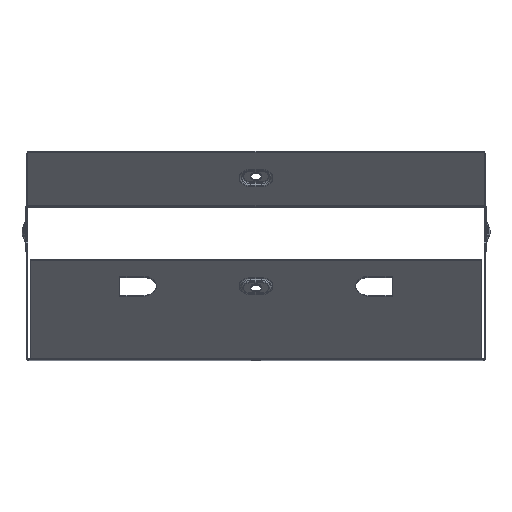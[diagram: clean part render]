
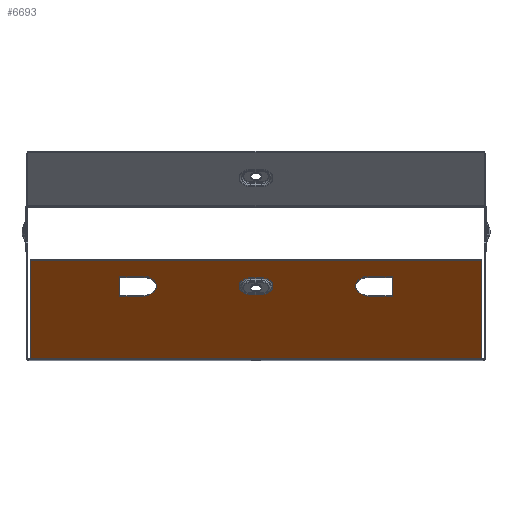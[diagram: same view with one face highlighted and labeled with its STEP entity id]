
A CAD part, top view. The second image highlights one B-rep face of the part: STEP entity #6693.
In plain terms, the highlighted planar face has unit normal (0, -0.707, 0.707).
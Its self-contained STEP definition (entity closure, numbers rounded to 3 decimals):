
#47 = CARTESIAN_POINT ( 'NONE',  ( -74., -52.894, 152.156 ) ) ;
#128 = EDGE_CURVE ( 'NONE', #1862, #12596, #3987, .T. ) ;
#155 = EDGE_CURVE ( 'NONE', #7657, #11475, #14189, .T. ) ;
#170 = DIRECTION ( 'NONE',  ( 0., -0.707, -0.707 ) ) ;
#333 = VERTEX_POINT ( 'NONE', #4056 ) ;
#397 = ORIENTED_EDGE ( 'NONE', *, *, #2425, .T. ) ;
#581 = AXIS2_PLACEMENT_3D ( 'NONE', #11210, #13409, #3197 ) ;
#738 = ORIENTED_EDGE ( 'NONE', *, *, #10270, .T. ) ;
#746 = FACE_BOUND ( 'NONE', #8719, .T. ) ;
#805 = VERTEX_POINT ( 'NONE', #3806 ) ;
#889 = EDGE_LOOP ( 'NONE', ( #9167, #14653, #2696, #10898 ) ) ;
#1012 = CARTESIAN_POINT ( 'NONE',  ( 148.2, -100.273, 104.777 ) ) ;
#1036 = LINE ( 'NONE', #1253, #6485 ) ;
#1126 = VECTOR ( 'NONE', #10373, 1000. ) ;
#1253 = CARTESIAN_POINT ( 'NONE',  ( -74., -59.257, 145.793 ) ) ;
#1262 = EDGE_CURVE ( 'NONE', #10022, #5488, #3230, .T. ) ;
#1734 = VECTOR ( 'NONE', #10174, 1000. ) ;
#1772 = CARTESIAN_POINT ( 'NONE',  ( 89., -59.257, 145.793 ) ) ;
#1820 = CARTESIAN_POINT ( 'NONE',  ( 74., -46.53, 158.52 ) ) ;
#1862 = VERTEX_POINT ( 'NONE', #2820 ) ;
#1954 = FACE_BOUND ( 'NONE', #8033, .T. ) ;
#2080 = VECTOR ( 'NONE', #3104, 1000. ) ;
#2149 = CARTESIAN_POINT ( 'NONE',  ( 89., -46.53, 158.52 ) ) ;
#2172 = CARTESIAN_POINT ( 'NONE',  ( 3.5, -58.266, 146.784 ) ) ;
#2187 = VECTOR ( 'NONE', #8299, 1000. ) ;
#2199 = DIRECTION ( 'NONE',  ( 0., 0.707, 0.707 ) ) ;
#2418 = CIRCLE ( 'NONE', #9561, 9. ) ;
#2425 = EDGE_CURVE ( 'NONE', #12479, #1862, #14571, .T. ) ;
#2431 = EDGE_LOOP ( 'NONE', ( #13283, #14371, #738, #14428 ) ) ;
#2494 = CARTESIAN_POINT ( 'NONE',  ( -147.299, -100.8, 104.25 ) ) ;
#2530 = EDGE_CURVE ( 'NONE', #11475, #333, #14409, .T. ) ;
#2652 = VERTEX_POINT ( 'NONE', #12357 ) ;
#2696 = ORIENTED_EDGE ( 'NONE', *, *, #6201, .T. ) ;
#2820 = CARTESIAN_POINT ( 'NONE',  ( 74., -59.257, 145.793 ) ) ;
#3104 = DIRECTION ( 'NONE',  ( -1., 0., 0. ) ) ;
#3177 = CARTESIAN_POINT ( 'NONE',  ( -3.5, -58.266, 146.784 ) ) ;
#3186 = LINE ( 'NONE', #11286, #5649 ) ;
#3197 = DIRECTION ( 'NONE',  ( 0., 0.707, 0.707 ) ) ;
#3230 = LINE ( 'NONE', #7067, #2187 ) ;
#3382 = ORIENTED_EDGE ( 'NONE', *, *, #6850, .T. ) ;
#3411 = AXIS2_PLACEMENT_3D ( 'NONE', #3629, #11603, #12766 ) ;
#3629 = CARTESIAN_POINT ( 'NONE',  ( 74., -52.894, 152.156 ) ) ;
#3806 = CARTESIAN_POINT ( 'NONE',  ( -3.5, -47.521, 157.529 ) ) ;
#3987 = CIRCLE ( 'NONE', #3411, 9. ) ;
#4056 = CARTESIAN_POINT ( 'NONE',  ( -147.299, -100.273, 104.777 ) ) ;
#4251 = CARTESIAN_POINT ( 'NONE',  ( -3.5, -52.894, 152.156 ) ) ;
#4401 = DIRECTION ( 'NONE',  ( 0., 0.707, 0.707 ) ) ;
#4408 = DIRECTION ( 'NONE',  ( 0., -0.707, -0.707 ) ) ;
#4628 = ORIENTED_EDGE ( 'NONE', *, *, #128, .T. ) ;
#4791 = VERTEX_POINT ( 'NONE', #7622 ) ;
#4792 = CARTESIAN_POINT ( 'NONE',  ( -147.299, -35.923, 169.127 ) ) ;
#4832 = DIRECTION ( 'NONE',  ( -1., 0., 0. ) ) ;
#4855 = VERTEX_POINT ( 'NONE', #3177 ) ;
#5044 = VECTOR ( 'NONE', #8763, 1000. ) ;
#5174 = AXIS2_PLACEMENT_3D ( 'NONE', #6670, #14654, #2199 ) ;
#5211 = LINE ( 'NONE', #1012, #2080 ) ;
#5384 = CIRCLE ( 'NONE', #5476, 7.598 ) ;
#5476 = AXIS2_PLACEMENT_3D ( 'NONE', #4251, #12252, #4401 ) ;
#5488 = VERTEX_POINT ( 'NONE', #9141 ) ;
#5630 = CARTESIAN_POINT ( 'NONE',  ( 89., -46.53, 158.52 ) ) ;
#5649 = VECTOR ( 'NONE', #13419, 1000. ) ;
#6052 = CARTESIAN_POINT ( 'NONE',  ( 147.299, -35.923, 169.127 ) ) ;
#6201 = EDGE_CURVE ( 'NONE', #10251, #4855, #3186, .T. ) ;
#6440 = CARTESIAN_POINT ( 'NONE',  ( 74., -46.53, 158.52 ) ) ;
#6485 = VECTOR ( 'NONE', #9188, 1000. ) ;
#6670 = CARTESIAN_POINT ( 'NONE',  ( 3.5, -52.894, 152.156 ) ) ;
#6693 = ADVANCED_FACE ( 'NONE', ( #746, #1954, #12821, #12440 ), #8884, .F. ) ;
#6850 = EDGE_CURVE ( 'NONE', #2652, #10022, #12265, .T. ) ;
#7067 = CARTESIAN_POINT ( 'NONE',  ( -74., -46.53, 158.52 ) ) ;
#7622 = CARTESIAN_POINT ( 'NONE',  ( 3.5, -47.521, 157.529 ) ) ;
#7657 = VERTEX_POINT ( 'NONE', #6052 ) ;
#7761 = LINE ( 'NONE', #12573, #1734 ) ;
#8029 = CARTESIAN_POINT ( 'NONE',  ( 147.299, -101.015, 104.035 ) ) ;
#8033 = EDGE_LOOP ( 'NONE', ( #3382, #11920, #13186, #13155 ) ) ;
#8284 = DIRECTION ( 'NONE',  ( -1., 0., 0. ) ) ;
#8299 = DIRECTION ( 'NONE',  ( 1., 0., 0. ) ) ;
#8719 = EDGE_LOOP ( 'NONE', ( #397, #4628, #10365, #10497 ) ) ;
#8763 = DIRECTION ( 'NONE',  ( 1., 0., 0. ) ) ;
#8884 = PLANE ( 'NONE',  #581 ) ;
#8894 = VECTOR ( 'NONE', #9550, 1000. ) ;
#9141 = CARTESIAN_POINT ( 'NONE',  ( -74., -46.53, 158.52 ) ) ;
#9167 = ORIENTED_EDGE ( 'NONE', *, *, #10967, .T. ) ;
#9188 = DIRECTION ( 'NONE',  ( -1., 0., 0. ) ) ;
#9541 = CARTESIAN_POINT ( 'NONE',  ( -89., -46.53, 158.52 ) ) ;
#9550 = DIRECTION ( 'NONE',  ( 0., -0.707, -0.707 ) ) ;
#9551 = VECTOR ( 'NONE', #8284, 1000. ) ;
#9561 = AXIS2_PLACEMENT_3D ( 'NONE', #47, #10219, #4408 ) ;
#9690 = EDGE_CURVE ( 'NONE', #4791, #10251, #12698, .T. ) ;
#9815 = LINE ( 'NONE', #8029, #1126 ) ;
#10022 = VERTEX_POINT ( 'NONE', #9541 ) ;
#10174 = DIRECTION ( 'NONE',  ( 1., 0., 0. ) ) ;
#10219 = DIRECTION ( 'NONE',  ( 0., 0.707, -0.707 ) ) ;
#10241 = VECTOR ( 'NONE', #170, 1000. ) ;
#10251 = VERTEX_POINT ( 'NONE', #2172 ) ;
#10270 = EDGE_CURVE ( 'NONE', #10303, #7657, #9815, .T. ) ;
#10303 = VERTEX_POINT ( 'NONE', #12509 ) ;
#10365 = ORIENTED_EDGE ( 'NONE', *, *, #11728, .T. ) ;
#10373 = DIRECTION ( 'NONE',  ( 0., 0.707, 0.707 ) ) ;
#10497 = ORIENTED_EDGE ( 'NONE', *, *, #13803, .T. ) ;
#10839 = VECTOR ( 'NONE', #4832, 1000. ) ;
#10898 = ORIENTED_EDGE ( 'NONE', *, *, #11317, .T. ) ;
#10967 = EDGE_CURVE ( 'NONE', #805, #4791, #7761, .T. ) ;
#10972 = EDGE_CURVE ( 'NONE', #13990, #2652, #1036, .T. ) ;
#11210 = CARTESIAN_POINT ( 'NONE',  ( 148.2, -100.8, 104.25 ) ) ;
#11286 = CARTESIAN_POINT ( 'NONE',  ( 3.5, -58.266, 146.784 ) ) ;
#11317 = EDGE_CURVE ( 'NONE', #4855, #805, #5384, .T. ) ;
#11475 = VERTEX_POINT ( 'NONE', #4792 ) ;
#11603 = DIRECTION ( 'NONE',  ( 0., 0.707, -0.707 ) ) ;
#11638 = CARTESIAN_POINT ( 'NONE',  ( 74., -59.257, 145.793 ) ) ;
#11728 = EDGE_CURVE ( 'NONE', #12596, #13874, #13820, .T. ) ;
#11920 = ORIENTED_EDGE ( 'NONE', *, *, #1262, .T. ) ;
#12030 = LINE ( 'NONE', #2149, #10241 ) ;
#12252 = DIRECTION ( 'NONE',  ( 0., 0.707, -0.707 ) ) ;
#12265 = LINE ( 'NONE', #12722, #14222 ) ;
#12357 = CARTESIAN_POINT ( 'NONE',  ( -89., -59.257, 145.793 ) ) ;
#12440 = FACE_OUTER_BOUND ( 'NONE', #2431, .T. ) ;
#12479 = VERTEX_POINT ( 'NONE', #1772 ) ;
#12509 = CARTESIAN_POINT ( 'NONE',  ( 147.299, -100.273, 104.777 ) ) ;
#12573 = CARTESIAN_POINT ( 'NONE',  ( 3.5, -47.521, 157.529 ) ) ;
#12596 = VERTEX_POINT ( 'NONE', #1820 ) ;
#12698 = CIRCLE ( 'NONE', #5174, 7.598 ) ;
#12722 = CARTESIAN_POINT ( 'NONE',  ( -89., -46.53, 158.52 ) ) ;
#12766 = DIRECTION ( 'NONE',  ( 0., 0.707, 0.707 ) ) ;
#12821 = FACE_BOUND ( 'NONE', #889, .T. ) ;
#13155 = ORIENTED_EDGE ( 'NONE', *, *, #10972, .T. ) ;
#13186 = ORIENTED_EDGE ( 'NONE', *, *, #14115, .T. ) ;
#13283 = ORIENTED_EDGE ( 'NONE', *, *, #2530, .T. ) ;
#13409 = DIRECTION ( 'NONE',  ( 0., 0.707, -0.707 ) ) ;
#13419 = DIRECTION ( 'NONE',  ( -1., 0., 0. ) ) ;
#13653 = DIRECTION ( 'NONE',  ( 0., 0.707, 0.707 ) ) ;
#13796 = CARTESIAN_POINT ( 'NONE',  ( 148.2, -35.923, 169.127 ) ) ;
#13803 = EDGE_CURVE ( 'NONE', #13874, #12479, #12030, .T. ) ;
#13820 = LINE ( 'NONE', #6440, #5044 ) ;
#13874 = VERTEX_POINT ( 'NONE', #5630 ) ;
#13990 = VERTEX_POINT ( 'NONE', #14585 ) ;
#14033 = EDGE_CURVE ( 'NONE', #10303, #333, #5211, .T. ) ;
#14115 = EDGE_CURVE ( 'NONE', #5488, #13990, #2418, .T. ) ;
#14189 = LINE ( 'NONE', #13796, #9551 ) ;
#14222 = VECTOR ( 'NONE', #13653, 1000. ) ;
#14371 = ORIENTED_EDGE ( 'NONE', *, *, #14033, .F. ) ;
#14409 = LINE ( 'NONE', #2494, #8894 ) ;
#14428 = ORIENTED_EDGE ( 'NONE', *, *, #155, .T. ) ;
#14571 = LINE ( 'NONE', #11638, #10839 ) ;
#14585 = CARTESIAN_POINT ( 'NONE',  ( -74., -59.257, 145.793 ) ) ;
#14653 = ORIENTED_EDGE ( 'NONE', *, *, #9690, .T. ) ;
#14654 = DIRECTION ( 'NONE',  ( 0., 0.707, -0.707 ) ) ;
